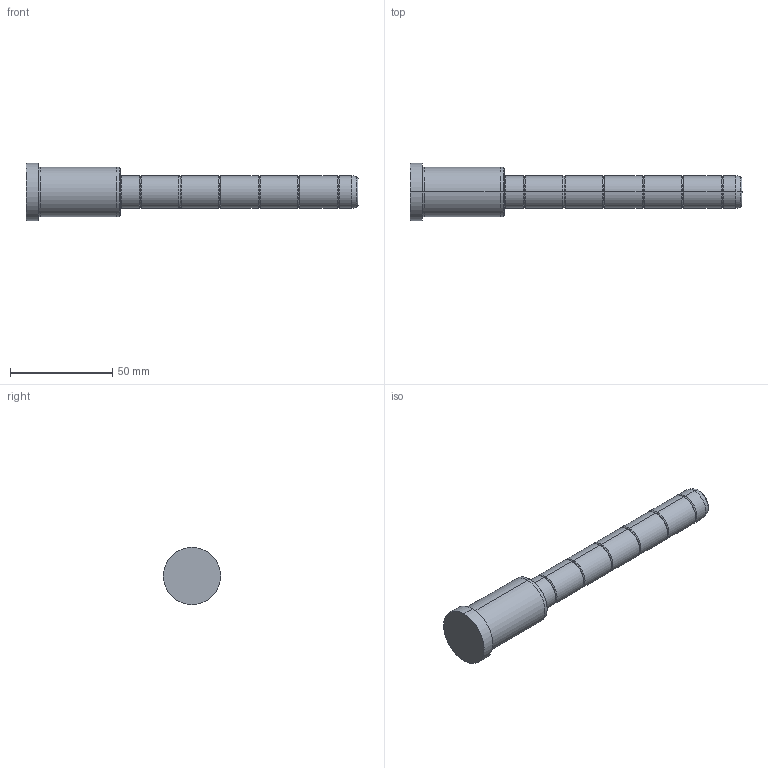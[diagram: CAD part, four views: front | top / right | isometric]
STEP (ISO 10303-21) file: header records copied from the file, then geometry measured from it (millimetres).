
FILE_DESCRIPTION( ( 'STEP AP203' ), '1' );
FILE_NAME( 'D:/Delta 3 D/D02/16/D02 - 16x46x116.step', '2003-01-04T13:11:28', ( ' ' ), ( ' ' ), 'XStep 1.0', ' ', ' ' );
FILE_SCHEMA( ( 'CONFIG_CONTROL_DESIGN' ) );
Length unit declared in the file: metre
Products named in the file (1): 1
Bounding box: 162 x 28 x 28 mm (x, y, z)
Volume: 44955.7 mm3; surface area: 10678.7 mm2
Topology: 1 solids, 1 shells, 60 faces, 118 edges, 64 vertices
Faces by surface type: bspline 34, revolution 26
Entity records: 1919 total; most frequent: CARTESIAN_POINT 817, ORIENTED_EDGE 236, DIRECTION 182, EDGE_CURVE 118, AXIS2_PLACEMENT_3D 65, EDGE_LOOP 64, VERTEX_POINT 64, CIRCLE 64
